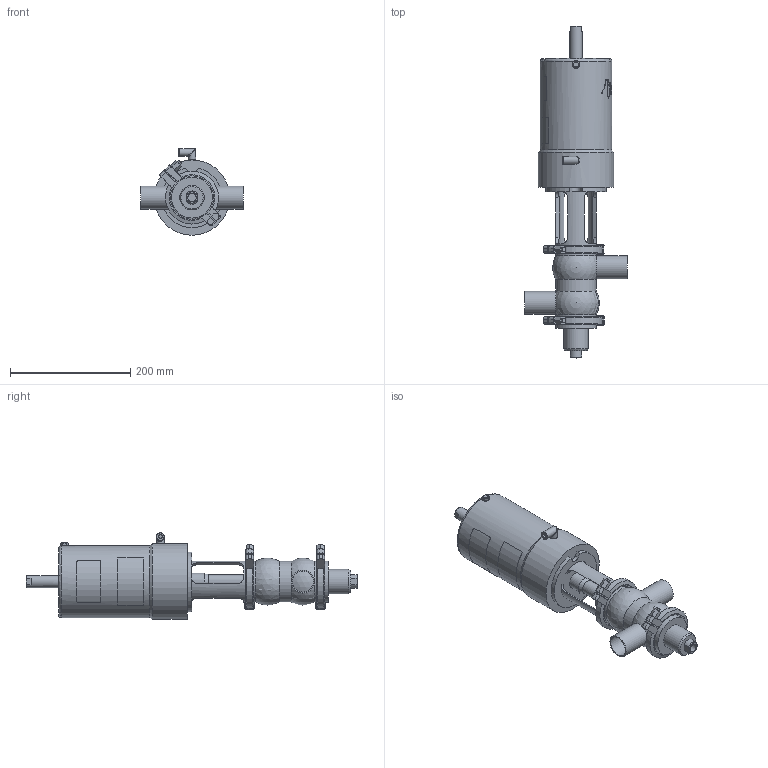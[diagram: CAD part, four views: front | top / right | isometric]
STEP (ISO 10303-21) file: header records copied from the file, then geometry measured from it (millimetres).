
FILE_DESCRIPTION (( 'STEP AP214' ), '1' );
FILE_NAME ('INNOVA S DC-180 W OD 1½_10.251.16.0009.STEP', '2024-08-20T10:25:05', ( '' ), ( '' ), 'SwSTEP 2.0', 'SolidWorks 2023', '' );
FILE_SCHEMA (( 'AUTOMOTIVE_DESIGN' ));
Length unit declared in the file: millimetre
Products named in the file (6): 10.251.15.0001_OD 1½"; 10.251.15.0002_DN 1½"; 10.250.15.0002_Type S T1; 10.240.15.0001_DN 040; INNOVA S DC-180 W OD 1½_10.251.16.0009; 10.251.15.0011_OD 1½"
Assembly tree (6 placements, depth 2):
  INNOVA S DC-180 W OD 1½_10.251.16.0009
    10.251.15.0001_OD 1½"
    10.250.15.0002_Type S T1
    10.251.15.0011_OD 1½"
    10.240.15.0001_DN 040  x2
    10.251.15.0002_DN 1½"
Bounding box: 170 x 551.2 x 143.5 mm (x, y, z)
Volume: 3320464.5 mm3; surface area: 273871.6 mm2
Topology: 6 solids, 6 shells, 421 faces, 1091 edges, 709 vertices
Faces by surface type: plane 201, cylinder 108, bspline 80, cone 27, sphere 4, torus 1
Full cylindrical faces by diameter (mm): 4.2 x2, 5 x1, 6 x1, 6.15 x1, 8 x4, 8.5 x1, 10.5 x2, 12.5 x6, 14 x1, 20 x1, 23 x1, 28 x1, 34.8 x2, 38.1 x2, 40.5 x1, 67.5 x3, 68 x2, 79.5 x4, 119.5 x1, 125 x1
Entity records: 21049 total; most frequent: CARTESIAN_POINT 11009, ORIENTED_EDGE 1720, DIRECTION 1339, EDGE_CURVE 860, VERTEX_POINT 588, AXIS2_PLACEMENT_3D 511, EDGE_LOOP 450, FACE_OUTER_BOUND 402
